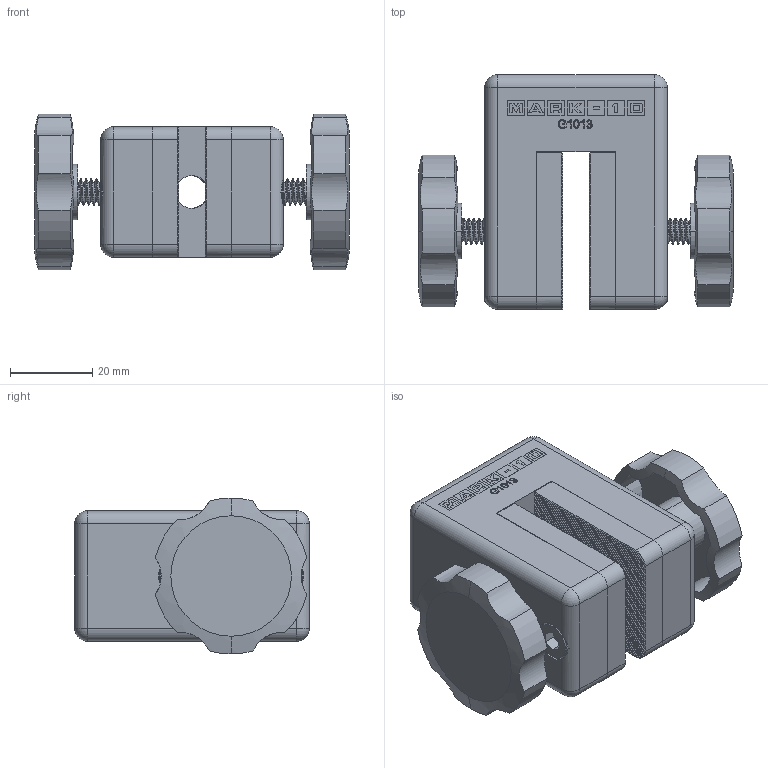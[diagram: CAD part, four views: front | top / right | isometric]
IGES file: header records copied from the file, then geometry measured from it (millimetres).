
Global section: file name: No Iges File Name specified; native system: Autodesk Inventor 2010; preprocessor: AutoDesk Inventor Iges Exporter R2010; author: mlampen; date: 20170419.125431; units: inch
Bounding box: 76.56 x 57.15 x 37.97 mm (x, y, z)
Volume: 79967 mm3; surface area: 31794 mm2
Topology: 5 solids, 7 shells, 1931 faces, 5251 edges, 3390 vertices
Faces by surface type: plane 1661, cylinder 129, revolution 56, bspline 41, cone 36, sphere 8
Full cylindrical faces by diameter (mm): 4.7 x28, 6.35 x28
